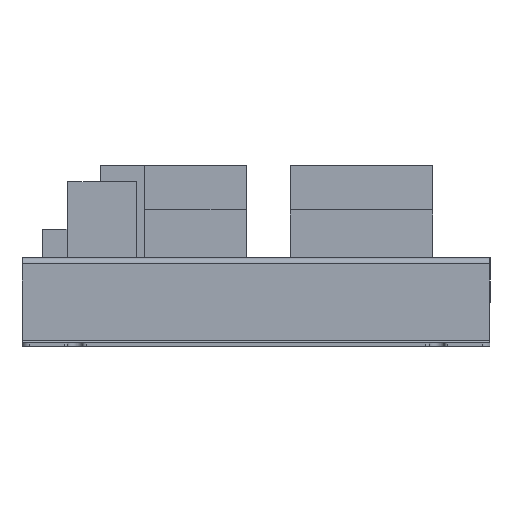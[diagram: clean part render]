
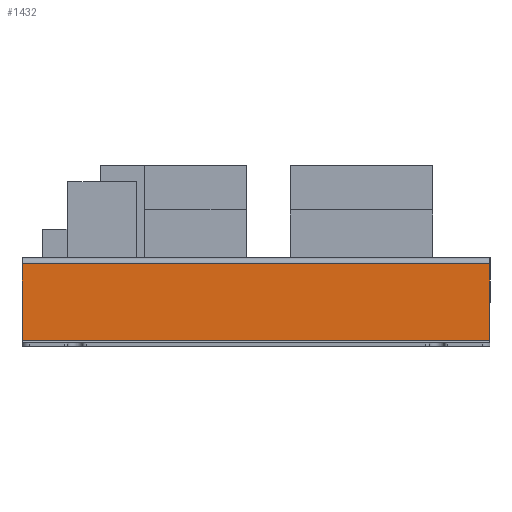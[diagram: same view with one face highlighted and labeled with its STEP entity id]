
A CAD part, front view. The second image highlights one B-rep face of the part: STEP entity #1432.
In plain terms, the highlighted planar face has unit normal (0, -1, 0).
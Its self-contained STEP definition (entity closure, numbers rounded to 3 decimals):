
#109 = CARTESIAN_POINT ( 'NONE',  ( -66., -56.5, -1.737 ) ) ;
#238 = FACE_OUTER_BOUND ( 'NONE', #3812, .T. ) ;
#646 = VERTEX_POINT ( 'NONE', #2576 ) ;
#754 = AXIS2_PLACEMENT_3D ( 'NONE', #3475, #4210, #2038 ) ;
#1241 = VERTEX_POINT ( 'NONE', #109 ) ;
#1432 = ADVANCED_FACE ( 'NONE', ( #238 ), #3857, .F. ) ;
#1623 = CARTESIAN_POINT ( 'NONE',  ( 66., -56.5, -23.263 ) ) ;
#1637 = ORIENTED_EDGE ( 'NONE', *, *, #3908, .T. ) ;
#1800 = LINE ( 'NONE', #3619, #4574 ) ;
#2038 = DIRECTION ( 'NONE',  ( 0., 0., 1. ) ) ;
#2170 = CARTESIAN_POINT ( 'NONE',  ( 0., -56.5, -1.737 ) ) ;
#2193 = DIRECTION ( 'NONE',  ( 0., 0., 1. ) ) ;
#2270 = EDGE_CURVE ( 'NONE', #1241, #646, #3904, .T. ) ;
#2539 = LINE ( 'NONE', #1623, #4353 ) ;
#2576 = CARTESIAN_POINT ( 'NONE',  ( 66., -56.5, -1.737 ) ) ;
#2609 = EDGE_CURVE ( 'NONE', #3856, #4562, #2539, .T. ) ;
#2957 = EDGE_CURVE ( 'NONE', #3856, #646, #3108, .T. ) ;
#2965 = ORIENTED_EDGE ( 'NONE', *, *, #2270, .F. ) ;
#3061 = VECTOR ( 'NONE', #4699, 1000. ) ;
#3108 = LINE ( 'NONE', #4008, #3842 ) ;
#3231 = CARTESIAN_POINT ( 'NONE',  ( 66., -56.5, -23.263 ) ) ;
#3253 = CARTESIAN_POINT ( 'NONE',  ( -66., -56.5, -23.263 ) ) ;
#3475 = CARTESIAN_POINT ( 'NONE',  ( 0., -56.5, 0. ) ) ;
#3504 = ORIENTED_EDGE ( 'NONE', *, *, #2957, .T. ) ;
#3619 = CARTESIAN_POINT ( 'NONE',  ( -66., -56.5, -25. ) ) ;
#3812 = EDGE_LOOP ( 'NONE', ( #3934, #3504, #2965, #1637 ) ) ;
#3824 = DIRECTION ( 'NONE',  ( -1., 0., 0. ) ) ;
#3842 = VECTOR ( 'NONE', #2193, 1000. ) ;
#3856 = VERTEX_POINT ( 'NONE', #3231 ) ;
#3857 = PLANE ( 'NONE',  #754 ) ;
#3904 = LINE ( 'NONE', #2170, #3061 ) ;
#3908 = EDGE_CURVE ( 'NONE', #1241, #4562, #1800, .T. ) ;
#3934 = ORIENTED_EDGE ( 'NONE', *, *, #2609, .F. ) ;
#3988 = DIRECTION ( 'NONE',  ( 0., 0., -1. ) ) ;
#4008 = CARTESIAN_POINT ( 'NONE',  ( 66., -56.5, -1. ) ) ;
#4210 = DIRECTION ( 'NONE',  ( 0., 1., 0. ) ) ;
#4353 = VECTOR ( 'NONE', #3824, 1000. ) ;
#4562 = VERTEX_POINT ( 'NONE', #3253 ) ;
#4574 = VECTOR ( 'NONE', #3988, 1000. ) ;
#4699 = DIRECTION ( 'NONE',  ( 1., 0., 0. ) ) ;
